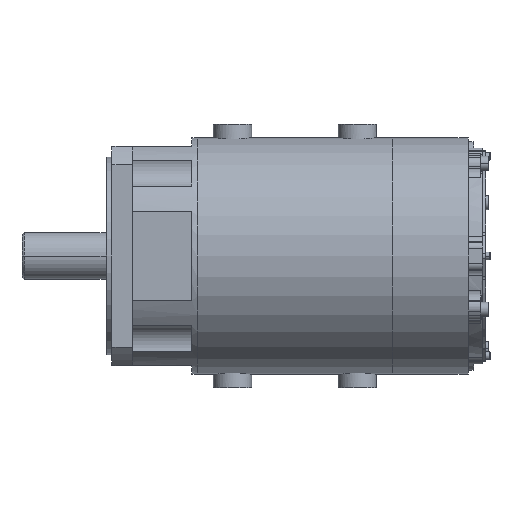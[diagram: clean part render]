
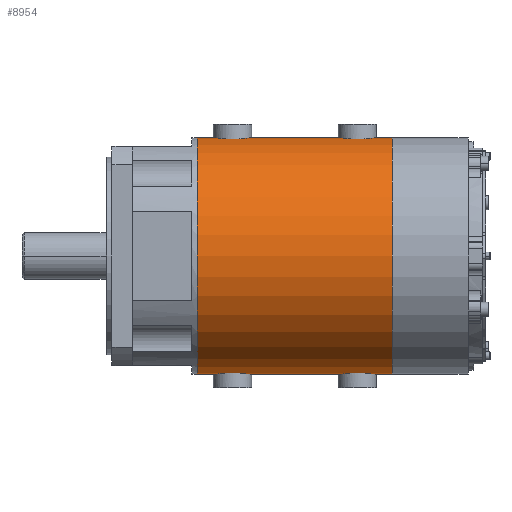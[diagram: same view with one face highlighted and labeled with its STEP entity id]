
A CAD part, front view. The second image highlights one B-rep face of the part: STEP entity #8954.
In plain terms, the highlighted cylindrical face has radius 108 mm (diameter 216 mm), a partial arc.
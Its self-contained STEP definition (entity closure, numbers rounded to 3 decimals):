
#7242=CARTESIAN_POINT('',(120.,0.,108.));
#7243=CARTESIAN_POINT('',(120.,-0.801,108.));
#7244=CARTESIAN_POINT('',(119.817,-2.364,107.983));
#7245=CARTESIAN_POINT('',(118.944,-4.698,107.905));
#7246=CARTESIAN_POINT('',(117.552,-6.697,107.797));
#7247=CARTESIAN_POINT('',(115.777,-8.282,107.685));
#7248=CARTESIAN_POINT('',(113.577,-9.45,107.587));
#7249=CARTESIAN_POINT('',(111.175,-10.026,107.534));
#7250=CARTESIAN_POINT('',(108.819,-10.025,107.534));
#7251=CARTESIAN_POINT('',(106.42,-9.449,107.587));
#7252=CARTESIAN_POINT('',(104.215,-8.277,107.685));
#7253=CARTESIAN_POINT('',(102.436,-6.683,107.798));
#7254=CARTESIAN_POINT('',(101.054,-4.692,107.906));
#7255=CARTESIAN_POINT('',(100.183,-2.363,107.983));
#7256=CARTESIAN_POINT('',(100.,-0.801,108.));
#7257=CARTESIAN_POINT('',(100.,0.,108.));
#7259=CARTESIAN_POINT('',(234.,0.,108.));
#7260=CARTESIAN_POINT('',(234.,-0.801,108.));
#7261=CARTESIAN_POINT('',(233.817,-2.364,107.983));
#7262=CARTESIAN_POINT('',(232.944,-4.698,107.905));
#7263=CARTESIAN_POINT('',(231.552,-6.697,107.797));
#7264=CARTESIAN_POINT('',(229.777,-8.282,107.685));
#7265=CARTESIAN_POINT('',(227.577,-9.45,107.587));
#7266=CARTESIAN_POINT('',(225.175,-10.026,107.534));
#7267=CARTESIAN_POINT('',(222.819,-10.025,107.534));
#7268=CARTESIAN_POINT('',(220.42,-9.449,107.587));
#7269=CARTESIAN_POINT('',(218.215,-8.277,107.685));
#7270=CARTESIAN_POINT('',(216.436,-6.683,107.798));
#7271=CARTESIAN_POINT('',(215.054,-4.692,107.906));
#7272=CARTESIAN_POINT('',(214.183,-2.363,107.983));
#7273=CARTESIAN_POINT('',(214.,-0.801,108.));
#7274=CARTESIAN_POINT('',(214.,0.,108.));
#7276=CARTESIAN_POINT('',(256.,0.,0.));
#7277=DIRECTION('',(1.,0.,0.));
#7278=DIRECTION('',(0.,0.,1.));
#7279=AXIS2_PLACEMENT_3D('',#7276,#7277,#7278);
#7281=DIRECTION('',(-1.,0.,0.));
#7282=VECTOR('',#7281,22.);
#7283=CARTESIAN_POINT('',(256.,0.,-108.));
#7284=LINE('',#7283,#7282);
#7285=CARTESIAN_POINT('',(214.,0.,-108.));
#7286=CARTESIAN_POINT('',(214.,-0.801,-108.));
#7287=CARTESIAN_POINT('',(214.183,-2.363,
-107.983));
#7288=CARTESIAN_POINT('',(215.054,-4.691,
-107.906));
#7289=CARTESIAN_POINT('',(216.436,-6.683,
-107.798));
#7290=CARTESIAN_POINT('',(218.215,-8.277,
-107.685));
#7291=CARTESIAN_POINT('',(220.419,-9.448,
-107.587));
#7292=CARTESIAN_POINT('',(222.818,-10.025,
-107.534));
#7293=CARTESIAN_POINT('',(225.175,-10.026,
-107.534));
#7294=CARTESIAN_POINT('',(227.577,-9.45,
-107.587));
#7295=CARTESIAN_POINT('',(229.777,-8.282,
-107.685));
#7296=CARTESIAN_POINT('',(231.552,-6.697,
-107.797));
#7297=CARTESIAN_POINT('',(232.944,-4.698,
-107.905));
#7298=CARTESIAN_POINT('',(233.817,-2.364,
-107.983));
#7299=CARTESIAN_POINT('',(234.,-0.801,-108.));
#7300=CARTESIAN_POINT('',(234.,0.,-108.));
#7302=DIRECTION('',(-1.,0.,0.));
#7303=VECTOR('',#7302,94.);
#7304=CARTESIAN_POINT('',(214.,0.,-108.));
#7305=LINE('',#7304,#7303);
#7306=CARTESIAN_POINT('',(100.,0.,-108.));
#7307=CARTESIAN_POINT('',(100.,-0.801,-108.));
#7308=CARTESIAN_POINT('',(100.183,-2.363,
-107.983));
#7309=CARTESIAN_POINT('',(101.054,-4.691,
-107.906));
#7310=CARTESIAN_POINT('',(102.436,-6.683,
-107.798));
#7311=CARTESIAN_POINT('',(104.215,-8.277,
-107.685));
#7312=CARTESIAN_POINT('',(106.419,-9.448,
-107.587));
#7313=CARTESIAN_POINT('',(108.818,-10.025,
-107.534));
#7314=CARTESIAN_POINT('',(111.175,-10.026,
-107.534));
#7315=CARTESIAN_POINT('',(113.577,-9.45,
-107.587));
#7316=CARTESIAN_POINT('',(115.777,-8.282,
-107.685));
#7317=CARTESIAN_POINT('',(117.552,-6.697,
-107.797));
#7318=CARTESIAN_POINT('',(118.944,-4.698,
-107.905));
#7319=CARTESIAN_POINT('',(119.817,-2.364,
-107.983));
#7320=CARTESIAN_POINT('',(120.,-0.801,-108.));
#7321=CARTESIAN_POINT('',(120.,0.,-108.));
#7323=DIRECTION('',(-1.,0.,0.));
#7324=VECTOR('',#7323,22.);
#7325=CARTESIAN_POINT('',(100.,0.,-108.));
#7326=LINE('',#7325,#7324);
#7327=CARTESIAN_POINT('',(78.,0.,0.));
#7328=DIRECTION('',(-1.,0.,0.));
#7329=DIRECTION('',(0.,0.,-1.));
#7330=AXIS2_PLACEMENT_3D('',#7327,#7328,#7329);
#8656=DIRECTION('',(-1.,0.,0.));
#8657=VECTOR('',#8656,22.);
#8658=CARTESIAN_POINT('',(100.,0.,108.));
#8659=LINE('',#8658,#8657);
#8704=DIRECTION('',(-1.,0.,0.));
#8705=VECTOR('',#8704,22.);
#8706=CARTESIAN_POINT('',(256.,0.,108.));
#8707=LINE('',#8706,#8705);
#8725=DIRECTION('',(-1.,0.,0.));
#8726=VECTOR('',#8725,94.);
#8727=CARTESIAN_POINT('',(214.,0.,108.));
#8728=LINE('',#8727,#8726);
#8745=CARTESIAN_POINT('',(256.,0.,-108.));
#8746=CARTESIAN_POINT('',(256.,0.,108.));
#8747=VERTEX_POINT('',#8745);
#8748=VERTEX_POINT('',#8746);
#8749=CARTESIAN_POINT('',(78.,0.,-108.));
#8750=CARTESIAN_POINT('',(78.,0.,108.));
#8751=VERTEX_POINT('',#8749);
#8752=VERTEX_POINT('',#8750);
#8899=VERTEX_POINT('',#7306);
#8900=VERTEX_POINT('',#7321);
#8901=VERTEX_POINT('',#7285);
#8902=VERTEX_POINT('',#7300);
#8907=CARTESIAN_POINT('',(120.,0.,108.));
#8909=VERTEX_POINT('',#8907);
#8911=CARTESIAN_POINT('',(100.,0.,108.));
#8913=VERTEX_POINT('',#8911);
#8915=CARTESIAN_POINT('',(234.,0.,108.));
#8917=VERTEX_POINT('',#8915);
#8919=CARTESIAN_POINT('',(214.,0.,108.));
#8921=VERTEX_POINT('',#8919);
#8923=CARTESIAN_POINT('',(256.,0.,0.));
#8924=DIRECTION('',(-1.,0.,0.));
#8925=DIRECTION('',(0.,0.,-1.));
#8926=AXIS2_PLACEMENT_3D('',#8923,#8924,#8925);
#8927=CYLINDRICAL_SURFACE('',#8926,108.);
#8929=ORIENTED_EDGE('',*,*,#8928,.F.);
#8931=ORIENTED_EDGE('',*,*,#8930,.F.);
#8933=ORIENTED_EDGE('',*,*,#8932,.F.);
#8935=ORIENTED_EDGE('',*,*,#8934,.F.);
#8937=ORIENTED_EDGE('',*,*,#8936,.T.);
#8939=ORIENTED_EDGE('',*,*,#8938,.T.);
#8941=ORIENTED_EDGE('',*,*,#8940,.F.);
#8943=ORIENTED_EDGE('',*,*,#8942,.T.);
#8945=ORIENTED_EDGE('',*,*,#8944,.F.);
#8947=ORIENTED_EDGE('',*,*,#8946,.T.);
#8949=ORIENTED_EDGE('',*,*,#8948,.T.);
#8951=ORIENTED_EDGE('',*,*,#8950,.F.);
#8952=EDGE_LOOP('',(#8929,#8931,#8933,#8935,#8937,#8939,#8941,#8943,#8945,#8947,
#8949,#8951));
#8953=FACE_OUTER_BOUND('',#8952,.F.);
#8954=ADVANCED_FACE('',(#8953),#8927,.T.);
#7258=B_SPLINE_CURVE_WITH_KNOTS('',3,(#7242,#7243,#7244,#7245,#7246,#7247,#7248,
#7249,#7250,#7251,#7252,#7253,#7254,#7255,#7256,#7257),.UNSPECIFIED.,.F.,.F.,(4,
1,1,1,1,1,1,1,1,1,1,1,1,4),(0.,0.077,0.154,
0.231,0.308,0.385,0.462,
0.538,0.615,0.692,0.769,
0.846,0.923,1.),.UNSPECIFIED.);
#7275=B_SPLINE_CURVE_WITH_KNOTS('',3,(#7259,#7260,#7261,#7262,#7263,#7264,#7265,
#7266,#7267,#7268,#7269,#7270,#7271,#7272,#7273,#7274),.UNSPECIFIED.,.F.,.F.,(4,
1,1,1,1,1,1,1,1,1,1,1,1,4),(0.,0.077,0.154,
0.231,0.308,0.385,0.462,
0.538,0.615,0.692,0.769,
0.846,0.923,1.),.UNSPECIFIED.);
#7280=CIRCLE('',#7279,108.);
#7301=B_SPLINE_CURVE_WITH_KNOTS('',3,(#7285,#7286,#7287,#7288,#7289,#7290,#7291,
#7292,#7293,#7294,#7295,#7296,#7297,#7298,#7299,#7300),.UNSPECIFIED.,.F.,.F.,(4,
1,1,1,1,1,1,1,1,1,1,1,1,4),(0.,0.077,0.154,
0.231,0.308,0.385,0.462,
0.538,0.615,0.692,0.769,
0.846,0.923,1.),.UNSPECIFIED.);
#7322=B_SPLINE_CURVE_WITH_KNOTS('',3,(#7306,#7307,#7308,#7309,#7310,#7311,#7312,
#7313,#7314,#7315,#7316,#7317,#7318,#7319,#7320,#7321),.UNSPECIFIED.,.F.,.F.,(4,
1,1,1,1,1,1,1,1,1,1,1,1,4),(0.,0.077,0.154,
0.231,0.308,0.385,0.462,
0.538,0.615,0.692,0.769,
0.846,0.923,1.),.UNSPECIFIED.);
#7331=CIRCLE('',#7330,108.);
#8928=EDGE_CURVE('',#8909,#8913,#7258,.T.);
#8930=EDGE_CURVE('',#8921,#8909,#8728,.T.);
#8932=EDGE_CURVE('',#8917,#8921,#7275,.T.);
#8934=EDGE_CURVE('',#8748,#8917,#8707,.T.);
#8936=EDGE_CURVE('',#8748,#8747,#7280,.T.);
#8938=EDGE_CURVE('',#8747,#8902,#7284,.T.);
#8940=EDGE_CURVE('',#8901,#8902,#7301,.T.);
#8942=EDGE_CURVE('',#8901,#8900,#7305,.T.);
#8944=EDGE_CURVE('',#8899,#8900,#7322,.T.);
#8946=EDGE_CURVE('',#8899,#8751,#7326,.T.);
#8948=EDGE_CURVE('',#8751,#8752,#7331,.T.);
#8950=EDGE_CURVE('',#8913,#8752,#8659,.T.);
